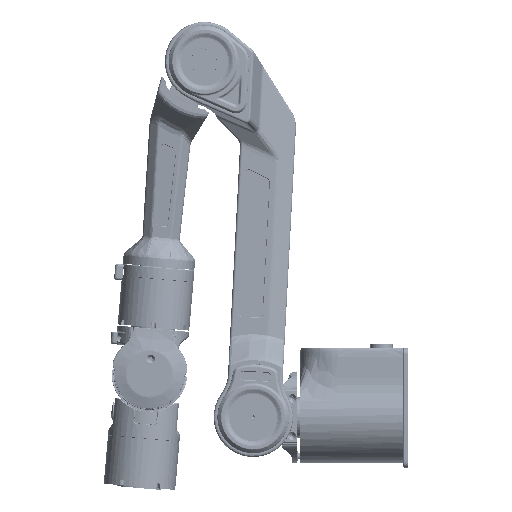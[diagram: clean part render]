
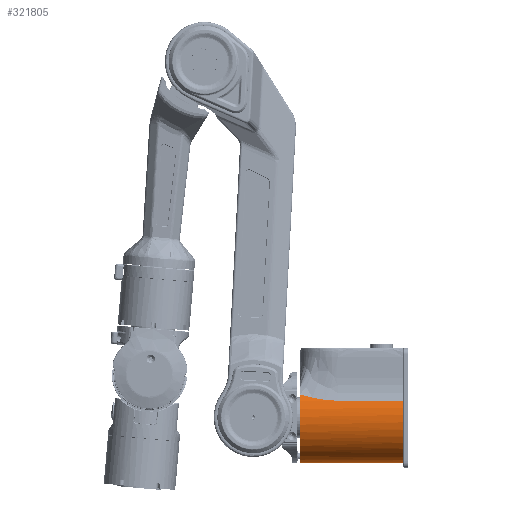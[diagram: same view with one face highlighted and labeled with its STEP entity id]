
A CAD part, left-side view. The second image highlights one B-rep face of the part: STEP entity #321805.
In plain terms, the highlighted cylindrical face has radius 36 mm (diameter 72 mm), a partial arc.
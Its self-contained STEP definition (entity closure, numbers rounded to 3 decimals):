
#7711 = CARTESIAN_POINT ( 'NONE',  ( -1., 76.868, -35.986 ) ) ;
#10349 = CARTESIAN_POINT ( 'NONE',  ( -0.799, 76.385, -35.991 ) ) ;
#13113 = CARTESIAN_POINT ( 'NONE',  ( -33.488, 70., 13.211 ) ) ;
#18202 = CARTESIAN_POINT ( 'NONE',  ( -1., 77., -35.986 ) ) ;
#19092 = CARTESIAN_POINT ( 'NONE',  ( -32.888, 67.082, 14.642 ) ) ;
#21765 = CARTESIAN_POINT ( 'NONE',  ( -32.452, 71.916, 15.599 ) ) ;
#23730 = DIRECTION ( 'NONE',  ( 0., -1., 0. ) ) ;
#29699 = CARTESIAN_POINT ( 'NONE',  ( -33.422, 57.078, 13.378 ) ) ;
#39687 = EDGE_CURVE ( 'NONE', #339040, #147158, #459612, .T. ) ;
#54959 = CARTESIAN_POINT ( 'NONE',  ( 0., 0., 0. ) ) ;
#58481 = DIRECTION ( 'NONE',  ( 0., 1., 0. ) ) ;
#61866 = CARTESIAN_POINT ( 'NONE',  ( -33.488, 52., 13.211 ) ) ;
#62290 = AXIS2_PLACEMENT_3D ( 'NONE', #54959, #372781, #263118 ) ;
#64524 = CARTESIAN_POINT ( 'NONE',  ( -32.899, 66.94, 14.616 ) ) ;
#67179 = CARTESIAN_POINT ( 'NONE',  ( -33.11, 64.011, 14.133 ) ) ;
#69810 = CARTESIAN_POINT ( 'NONE',  ( -33.377, 58.521, 13.489 ) ) ;
#79285 = ORIENTED_EDGE ( 'NONE', *, *, #117118, .T. ) ;
#82346 = ORIENTED_EDGE ( 'NONE', *, *, #362619, .T. ) ;
#87933 = CARTESIAN_POINT ( 'NONE',  ( -0.974, 76.738, -35.987 ) ) ;
#93211 = CARTESIAN_POINT ( 'NONE',  ( -0.262, 76.026, -35.999 ) ) ;
#96428 = CARTESIAN_POINT ( 'NONE',  ( -1., 70., -35.986 ) ) ;
#96593 = AXIS2_PLACEMENT_3D ( 'NONE', #482831, #167437, #159609 ) ;
#101940 = CARTESIAN_POINT ( 'NONE',  ( -32.965, 66.09, 14.467 ) ) ;
#104093 = ORIENTED_EDGE ( 'NONE', *, *, #496897, .T. ) ;
#104602 = CARTESIAN_POINT ( 'NONE',  ( -33.476, 54.527, 13.243 ) ) ;
#106582 = CARTESIAN_POINT ( 'NONE',  ( 0., 70., -36. ) ) ;
#107260 = CARTESIAN_POINT ( 'NONE',  ( -33.488, 53.259, 13.211 ) ) ;
#107347 = EDGE_CURVE ( 'NONE', #147158, #317941, #469910, .T. ) ;
#109900 = CARTESIAN_POINT ( 'NONE',  ( -32.882, 67.153, 14.655 ) ) ;
#112542 = CARTESIAN_POINT ( 'NONE',  ( -33.286, 60.873, 13.714 ) ) ;
#117118 = EDGE_CURVE ( 'NONE', #462586, #339040, #311128, .T. ) ;
#143937 = LINE ( 'NONE', #106582, #444408 ) ;
#147158 = VERTEX_POINT ( 'NONE', #212010 ) ;
#159609 = DIRECTION ( 'NONE',  ( 0., 0., -1. ) ) ;
#162315 = ORIENTED_EDGE ( 'NONE', *, *, #480439, .T. ) ;
#167437 = DIRECTION ( 'NONE',  ( 0., -1., 0. ) ) ;
#173195 = CARTESIAN_POINT ( 'NONE',  ( -0.615, 76.2, -35.995 ) ) ;
#178473 = CARTESIAN_POINT ( 'NONE',  ( -0.13, 76., -36. ) ) ;
#181113 = CARTESIAN_POINT ( 'NONE',  ( -0.503, 76.126, -35.997 ) ) ;
#181282 = LINE ( 'NONE', #13113, #254437 ) ;
#182697 = CIRCLE ( 'NONE', #62290, 36. ) ;
#187312 = CARTESIAN_POINT ( 'NONE',  ( -31.488, 79.382, 17.472 ) ) ;
#189952 = CARTESIAN_POINT ( 'NONE',  ( -33.001, 65.608, 14.386 ) ) ;
#190759 = VECTOR ( 'NONE', #384649, 1000. ) ;
#192579 = CARTESIAN_POINT ( 'NONE',  ( -31.045, 82., 18.227 ) ) ;
#193156 = DIRECTION ( 'NONE',  ( 0., 0., -1. ) ) ;
#193812 = ORIENTED_EDGE ( 'NONE', *, *, #217244, .T. ) ;
#202293 = FACE_OUTER_BOUND ( 'NONE', #211904, .T. ) ;
#211904 = EDGE_LOOP ( 'NONE', ( #509279, #82346, #193812, #104093, #162315, #79285, #271141 ) ) ;
#212010 = CARTESIAN_POINT ( 'NONE',  ( -1., 77., -35.986 ) ) ;
#217244 = EDGE_CURVE ( 'NONE', #348765, #386209, #182697, .T. ) ;
#224732 = CARTESIAN_POINT ( 'NONE',  ( -33.224, 62.117, 13.864 ) ) ;
#230026 = CARTESIAN_POINT ( 'NONE',  ( -33.068, 64.647, 14.23 ) ) ;
#232653 = CARTESIAN_POINT ( 'NONE',  ( -33.346, 59.366, 13.566 ) ) ;
#233243 = CARTESIAN_POINT ( 'NONE',  ( 0., 82., 0. ) ) ;
#251562 = CARTESIAN_POINT ( 'NONE',  ( -1., 82., -35.986 ) ) ;
#254437 = VECTOR ( 'NONE', #58481, 1000. ) ;
#263118 = DIRECTION ( 'NONE',  ( 0., 0., -1. ) ) ;
#270086 = CARTESIAN_POINT ( 'NONE',  ( -32.878, 67.204, 14.664 ) ) ;
#271141 = ORIENTED_EDGE ( 'NONE', *, *, #39687, .T. ) ;
#287368 = B_SPLINE_CURVE_WITH_KNOTS ( 'NONE', 3,
 ( #61866, #107260, #104602, #435663, #29699, #390243, #69810, #347550, #232653, #430365, #475738, #395512, #112542, #224732, #67179, #230026, #189952, #101940, #387589, #64524, #19092, #109900, #478384, #270086, #473089, #344902, #21765, #384939, #187312, #192579 ),
 .UNSPECIFIED., .F., .F.,
 ( 4, 2, 2, 1, 1, 1, 2, 2, 2, 2, 1, 1, 1, 1, 1, 2, 2, 2, 4 ),
 ( 0., 0.125, 0.187, 0.219, 0.234, 0.242, 0.246, 0.25, 0.375, 0.437, 0.469, 0.484, 0.492, 0.496, 0.498, 0.499, 0.5, 0.75, 1. ),
 .UNSPECIFIED. ) ;
#296247 = CARTESIAN_POINT ( 'NONE',  ( 0., 0., -36. ) ) ;
#311128 = CIRCLE ( 'NONE', #481671, 36. ) ;
#317941 = VERTEX_POINT ( 'NONE', #361596 ) ;
#321805 = ADVANCED_FACE ( 'NONE', ( #202293 ), #445362, .T. ) ;
#325763 = VERTEX_POINT ( 'NONE', #437990 ) ;
#333448 = CARTESIAN_POINT ( 'NONE',  ( 0., 76., -36. ) ) ;
#339040 = VERTEX_POINT ( 'NONE', #251562 ) ;
#344009 = CARTESIAN_POINT ( 'NONE',  ( -0.874, 76.496, -35.989 ) ) ;
#344902 = CARTESIAN_POINT ( 'NONE',  ( -32.689, 69.531, 15.087 ) ) ;
#347550 = CARTESIAN_POINT ( 'NONE',  ( -33.357, 59.084, 13.539 ) ) ;
#348765 = VERTEX_POINT ( 'NONE', #296247 ) ;
#361596 = CARTESIAN_POINT ( 'NONE',  ( 0., 76., -36. ) ) ;
#362619 = EDGE_CURVE ( 'NONE', #317941, #348765, #143937, .T. ) ;
#372781 = DIRECTION ( 'NONE',  ( 0., 1., 0. ) ) ;
#384649 = DIRECTION ( 'NONE',  ( 0., -1., 0. ) ) ;
#384939 = CARTESIAN_POINT ( 'NONE',  ( -31.851, 76.841, 16.791 ) ) ;
#386209 = VERTEX_POINT ( 'NONE', #527132 ) ;
#387589 = CARTESIAN_POINT ( 'NONE',  ( -32.922, 66.656, 14.566 ) ) ;
#390243 = CARTESIAN_POINT ( 'NONE',  ( -33.393, 58.04, 13.45 ) ) ;
#395512 = CARTESIAN_POINT ( 'NONE',  ( -33.337, 59.61, 13.59 ) ) ;
#396086 = DIRECTION ( 'NONE',  ( 0., -1., 0. ) ) ;
#430365 = CARTESIAN_POINT ( 'NONE',  ( -33.341, 59.487, 13.578 ) ) ;
#435663 = CARTESIAN_POINT ( 'NONE',  ( -33.438, 56.439, 13.339 ) ) ;
#437990 = CARTESIAN_POINT ( 'NONE',  ( -33.488, 52., 13.211 ) ) ;
#444408 = VECTOR ( 'NONE', #23730, 1000. ) ;
#445362 = CYLINDRICAL_SURFACE ( 'NONE', #96593, 36. ) ;
#459612 = LINE ( 'NONE', #96428, #190759 ) ;
#462586 = VERTEX_POINT ( 'NONE', #520861 ) ;
#469910 = B_SPLINE_CURVE_WITH_KNOTS ( 'NONE', 3,
 ( #18202, #7711, #87933, #344009, #10349, #173195, #181113, #93211, #178473, #333448 ),
 .UNSPECIFIED., .F., .F.,
 ( 4, 2, 2, 2, 4 ),
 ( 0., 0., 0.001, 0.001, 0.002 ),
 .UNSPECIFIED. ) ;
#473089 = CARTESIAN_POINT ( 'NONE',  ( -32.877, 67.215, 14.666 ) ) ;
#475738 = CARTESIAN_POINT ( 'NONE',  ( -33.338, 59.568, 13.585 ) ) ;
#478384 = CARTESIAN_POINT ( 'NONE',  ( -32.88, 67.183, 14.66 ) ) ;
#480439 = EDGE_CURVE ( 'NONE', #325763, #462586, #287368, .T. ) ;
#481671 = AXIS2_PLACEMENT_3D ( 'NONE', #233243, #396086, #193156 ) ;
#482831 = CARTESIAN_POINT ( 'NONE',  ( 0., 70., 0. ) ) ;
#496897 = EDGE_CURVE ( 'NONE', #386209, #325763, #181282, .T. ) ;
#509279 = ORIENTED_EDGE ( 'NONE', *, *, #107347, .T. ) ;
#520861 = CARTESIAN_POINT ( 'NONE',  ( -31.045, 82., 18.227 ) ) ;
#527132 = CARTESIAN_POINT ( 'NONE',  ( -33.488, 0., 13.211 ) ) ;
